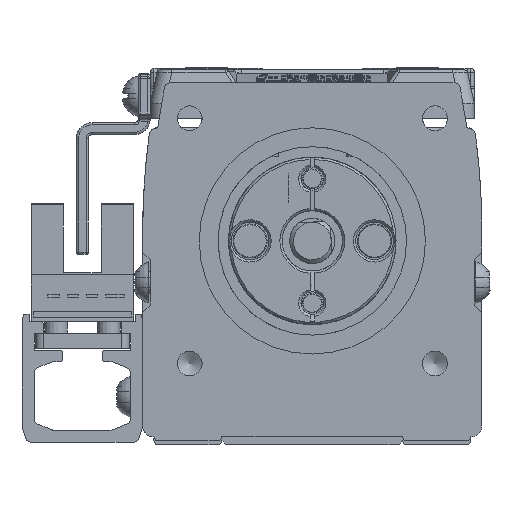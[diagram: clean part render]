
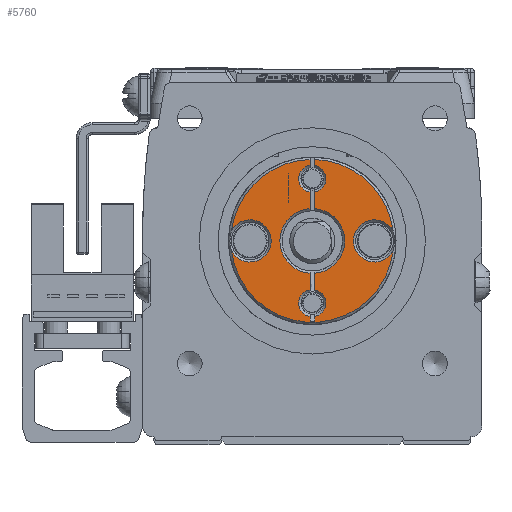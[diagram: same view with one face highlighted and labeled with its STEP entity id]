
A CAD part, left-side view. The second image highlights one B-rep face of the part: STEP entity #5760.
In plain terms, the highlighted planar face has unit normal (-1, 0, 0) as drawn and (1, 0, 0) by its records, which use the part's own axes.
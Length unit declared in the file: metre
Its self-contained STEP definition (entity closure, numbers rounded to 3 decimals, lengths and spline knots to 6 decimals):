
#5760=ADVANCED_FACE('',(#12082),#12083,.F.);
#12082=FACE_OUTER_BOUND('',#20658,.T.);
#12083=PLANE('',#20659);
#20658=EDGE_LOOP('',(#34822,#34823,#34824,#34825,#34826,#34827,#34828,#34829,#34830,#34831,#34832,#34833,#34834,#34835,#34836,#34837,#34838,#34839,#34840,#34841));
#20659=AXIS2_PLACEMENT_3D('',#34842,#34843,#34844);
#34822=ORIENTED_EDGE('',*,*,#52462,.F.);
#34823=ORIENTED_EDGE('',*,*,#52463,.T.);
#34824=ORIENTED_EDGE('',*,*,#52464,.F.);
#34825=ORIENTED_EDGE('',*,*,#52465,.F.);
#34826=ORIENTED_EDGE('',*,*,#52466,.T.);
#34827=ORIENTED_EDGE('',*,*,#52467,.T.);
#34828=ORIENTED_EDGE('',*,*,#52468,.F.);
#34829=ORIENTED_EDGE('',*,*,#52469,.F.);
#34830=ORIENTED_EDGE('',*,*,#52470,.F.);
#34831=ORIENTED_EDGE('',*,*,#52471,.T.);
#34832=ORIENTED_EDGE('',*,*,#52091,.F.);
#34833=ORIENTED_EDGE('',*,*,#52472,.F.);
#34834=ORIENTED_EDGE('',*,*,#52473,.F.);
#34835=ORIENTED_EDGE('',*,*,#50496,.F.);
#34836=ORIENTED_EDGE('',*,*,#52474,.F.);
#34837=ORIENTED_EDGE('',*,*,#50494,.F.);
#34838=ORIENTED_EDGE('',*,*,#50416,.F.);
#34839=ORIENTED_EDGE('',*,*,#50493,.F.);
#34840=ORIENTED_EDGE('',*,*,#52457,.T.);
#34841=ORIENTED_EDGE('',*,*,#52475,.F.);
#34842=CARTESIAN_POINT('',(0.0,0.0,0.));
#34843=DIRECTION('',(-1.0,0.,0.0));
#34844=DIRECTION('',(0.,-1.0,0.0));
#50416=EDGE_CURVE('',#59062,#59063,#59064,.T.);
#50493=EDGE_CURVE('',#59195,#59062,#59197,.T.);
#50494=EDGE_CURVE('',#59063,#59198,#59199,.T.);
#50496=EDGE_CURVE('',#59200,#59202,#59203,.T.);
#52091=EDGE_CURVE('',#61785,#61786,#61787,.F.);
#52457=EDGE_CURVE('',#59195,#62366,#62368,.F.);
#52462=EDGE_CURVE('',#62375,#62376,#62377,.F.);
#52463=EDGE_CURVE('',#62375,#62378,#62379,.T.);
#52464=EDGE_CURVE('',#62380,#62378,#62381,.F.);
#52465=EDGE_CURVE('',#62382,#62380,#62383,.T.);
#52466=EDGE_CURVE('',#62382,#62384,#62385,.F.);
#52467=EDGE_CURVE('',#62384,#62386,#62387,.T.);
#52468=EDGE_CURVE('',#62388,#62386,#62389,.F.);
#52469=EDGE_CURVE('',#62390,#62388,#62391,.T.);
#52470=EDGE_CURVE('',#62392,#62390,#62393,.T.);
#52471=EDGE_CURVE('',#62392,#61786,#62394,.T.);
#52472=EDGE_CURVE('',#62395,#61785,#62396,.T.);
#52473=EDGE_CURVE('',#59202,#62395,#62397,.T.);
#52474=EDGE_CURVE('',#59198,#59200,#62398,.T.);
#52475=EDGE_CURVE('',#62376,#62366,#62399,.T.);
#59062=VERTEX_POINT('',#71517);
#59063=VERTEX_POINT('',#71518);
#59064=CIRCLE('',#71519,0.0028);
#59195=VERTEX_POINT('',#71706);
#59197=CIRCLE('',#71711,0.0108);
#59198=VERTEX_POINT('',#71712);
#59199=CIRCLE('',#71713,0.0108);
#59200=VERTEX_POINT('',#71714);
#59202=VERTEX_POINT('',#71721);
#59203=CIRCLE('',#71722,0.0108);
#61785=VERTEX_POINT('',#75682);
#61786=VERTEX_POINT('',#75683);
#61787=LINE('',#75684,#75685);
#62366=VERTEX_POINT('',#76538);
#62368=LINE('',#76543,#76544);
#62375=VERTEX_POINT('',#76554);
#62376=VERTEX_POINT('',#76555);
#62377=LINE('',#76556,#76557);
#62378=VERTEX_POINT('',#76558);
#62379=CIRCLE('',#76559,0.0043);
#62380=VERTEX_POINT('',#76560);
#62381=LINE('',#76561,#76562);
#62382=VERTEX_POINT('',#76563);
#62383=CIRCLE('',#76564,0.0018);
#62384=VERTEX_POINT('',#76565);
#62385=LINE('',#76566,#76567);
#62386=VERTEX_POINT('',#76568);
#62387=LINE('',#76569,#76570);
#62388=VERTEX_POINT('',#76571);
#62389=LINE('',#76572,#76573);
#62390=VERTEX_POINT('',#76574);
#62391=CIRCLE('',#76575,0.0018);
#62392=VERTEX_POINT('',#76576);
#62393=LINE('',#76577,#76578);
#62394=CIRCLE('',#76579,0.0043);
#62395=VERTEX_POINT('',#76580);
#62396=CIRCLE('',#76581,0.0018);
#62397=LINE('',#76582,#76583);
#62398=CIRCLE('',#76584,0.0028);
#62399=CIRCLE('',#76585,0.0018);
#71517=CARTESIAN_POINT('',(0.,0.001321,-0.010719));
#71518=CARTESIAN_POINT('',(0.,-0.001321,-0.010719));
#71519=AXIS2_PLACEMENT_3D('',#87657,#87658,#87659);
#71706=CARTESIAN_POINT('',(0.,0.010796,-0.0003));
#71711=AXIS2_PLACEMENT_3D('',#87752,#87753,#87754);
#71712=CARTESIAN_POINT('',(0.,-0.001321,0.010719));
#71713=AXIS2_PLACEMENT_3D('',#87755,#87756,#87757);
#71714=CARTESIAN_POINT('',(0.,0.001321,0.010719));
#71721=CARTESIAN_POINT('',(0.,0.010796,0.0003));
#71722=AXIS2_PLACEMENT_3D('',#87758,#87759,#87760);
#75682=CARTESIAN_POINT('',(0.0,0.006475,0.0003));
#75683=CARTESIAN_POINT('',(0.0,0.00429,0.0003));
#75684=CARTESIAN_POINT('',(0.0,0.0025,0.0003));
#75685=VECTOR('',#89726,1.0);
#76538=CARTESIAN_POINT('',(0.,0.010025,-0.0003));
#76543=CARTESIAN_POINT('',(0.0,0.0025,-0.0003));
#76544=VECTOR('',#90184,1.0);
#76554=CARTESIAN_POINT('',(0.,0.00429,-0.0003));
#76555=CARTESIAN_POINT('',(0.,0.006475,-0.0003));
#76556=CARTESIAN_POINT('',(0.0,0.0,-0.0003));
#76557=VECTOR('',#90188,1.0);
#76558=CARTESIAN_POINT('',(0.,-0.00429,-0.0003));
#76559=AXIS2_PLACEMENT_3D('',#90189,#90190,#90191);
#76560=CARTESIAN_POINT('',(0.,-0.006475,-0.0003));
#76561=CARTESIAN_POINT('',(0.0,0.0,-0.0003));
#76562=VECTOR('',#90192,1.0);
#76563=CARTESIAN_POINT('',(0.,-0.010025,-0.0003));
#76564=AXIS2_PLACEMENT_3D('',#90193,#90194,#90195);
#76565=CARTESIAN_POINT('',(0.,-0.010642,-0.0003));
#76566=CARTESIAN_POINT('',(0.0,0.0025,-0.0003));
#76567=VECTOR('',#90196,1.0);
#76568=CARTESIAN_POINT('',(0.,-0.010642,0.0003));
#76569=CARTESIAN_POINT('',(0.,-0.010642,0.0003));
#76570=VECTOR('',#90197,1.0);
#76571=CARTESIAN_POINT('',(0.,-0.010025,0.0003));
#76572=CARTESIAN_POINT('',(0.0,0.0025,0.0003));
#76573=VECTOR('',#90198,1.0);
#76574=CARTESIAN_POINT('',(0.,-0.006475,0.0003));
#76575=AXIS2_PLACEMENT_3D('',#90199,#90200,#90201);
#76576=CARTESIAN_POINT('',(0.,-0.00429,0.0003));
#76577=CARTESIAN_POINT('',(0.0,0.0,0.0003));
#76578=VECTOR('',#90202,1.0);
#76579=AXIS2_PLACEMENT_3D('',#90203,#90204,#90205);
#76580=CARTESIAN_POINT('',(0.,0.010025,0.0003));
#76581=AXIS2_PLACEMENT_3D('',#90206,#90207,#90208);
#76582=CARTESIAN_POINT('',(0.0,0.0,0.0003));
#76583=VECTOR('',#90209,1.0);
#76584=AXIS2_PLACEMENT_3D('',#90210,#90211,#90212);
#76585=AXIS2_PLACEMENT_3D('',#90213,#90214,#90215);
#87657=CARTESIAN_POINT('',(0.,0.,-0.00825));
#87658=DIRECTION('',(1.0,0.,0.0));
#87659=DIRECTION('',(0.,1.0,0.0));
#87752=CARTESIAN_POINT('',(0.,0.0,0.));
#87753=DIRECTION('',(-1.0,0.0,0.0));
#87754=DIRECTION('',(0.0,0.0,1.0));
#87755=CARTESIAN_POINT('',(0.,0.0,0.));
#87756=DIRECTION('',(-1.0,0.0,0.0));
#87757=DIRECTION('',(0.0,0.0,1.0));
#87758=CARTESIAN_POINT('',(0.,0.0,0.));
#87759=DIRECTION('',(-1.0,0.0,0.0));
#87760=DIRECTION('',(0.0,0.0,1.0));
#89726=DIRECTION('',(0.0,1.0,0.0));
#90184=DIRECTION('',(0.0,1.0,0.0));
#90188=DIRECTION('',(0.,-1.0,0.0));
#90189=CARTESIAN_POINT('',(0.,0.,0.));
#90190=DIRECTION('',(-1.0,0.,0.0));
#90191=DIRECTION('',(0.,-1.0,0.0));
#90192=DIRECTION('',(0.,-1.0,0.0));
#90193=CARTESIAN_POINT('',(0.0,-0.00825,0.));
#90194=DIRECTION('',(1.0,0.0,0.0));
#90195=DIRECTION('',(0.0,0.0,-1.0));
#90196=DIRECTION('',(0.0,1.0,0.0));
#90197=DIRECTION('',(0.0,0.0,1.0));
#90198=DIRECTION('',(0.0,1.0,0.0));
#90199=CARTESIAN_POINT('',(0.0,-0.00825,0.));
#90200=DIRECTION('',(1.0,0.0,0.0));
#90201=DIRECTION('',(0.0,0.0,-1.0));
#90202=DIRECTION('',(0.,-1.0,0.0));
#90203=CARTESIAN_POINT('',(0.,0.,0.));
#90204=DIRECTION('',(-1.0,0.,0.0));
#90205=DIRECTION('',(0.,-1.0,0.0));
#90206=CARTESIAN_POINT('',(0.0,0.00825,0.));
#90207=DIRECTION('',(1.0,0.0,0.0));
#90208=DIRECTION('',(0.0,0.0,-1.0));
#90209=DIRECTION('',(0.,-1.0,0.0));
#90210=CARTESIAN_POINT('',(0.0,0.,0.00825));
#90211=DIRECTION('',(1.0,0.,0.0));
#90212=DIRECTION('',(0.,1.0,0.0));
#90213=CARTESIAN_POINT('',(0.0,0.00825,0.));
#90214=DIRECTION('',(1.0,0.0,0.0));
#90215=DIRECTION('',(0.0,0.0,-1.0));
